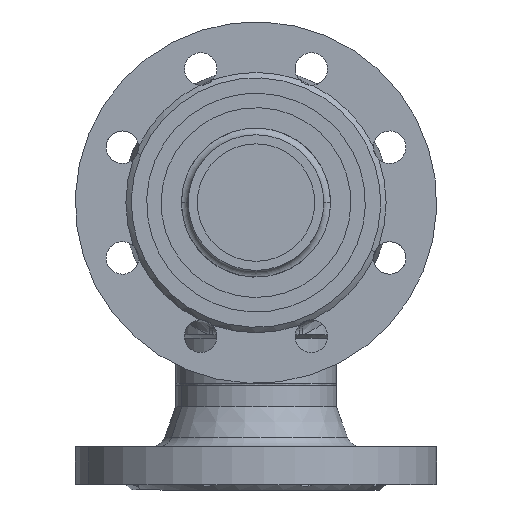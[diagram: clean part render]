
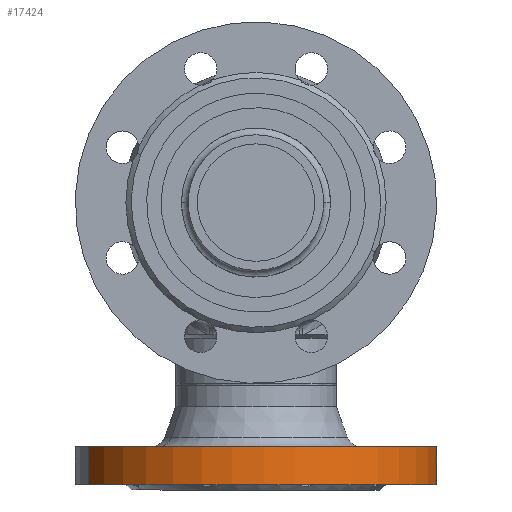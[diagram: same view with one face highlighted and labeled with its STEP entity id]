
A CAD part, front view. The second image highlights one B-rep face of the part: STEP entity #17424.
In plain terms, the highlighted cylindrical face has radius 100 mm (diameter 200 mm), a partial arc.
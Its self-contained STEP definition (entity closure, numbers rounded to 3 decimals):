
#16690 = ORIENTED_EDGE ( 'NONE', *, *, #14976, .F. ) ;
#17190 = EDGE_LOOP ( 'NONE', ( #16690, #16186, #5972, #5484 ) ) ;
#17424 = ADVANCED_FACE ( 'NONE', ( #2670 ), #2671, .T. ) ;
#17799 = EDGE_CURVE ( 'NONE', #14764, #9117, #3066, .T. ) ;
#2638 = LINE ( 'NONE', #2640, #2641 ) ;
#2640 = CARTESIAN_POINT ( 'NONE',  ( -100., 75., 0. ) ) ;
#2641 = VECTOR ( 'NONE', #2642, 1000. ) ;
#2642 = DIRECTION ( 'NONE',  ( 0., 1., 0. ) ) ;
#2670 = FACE_OUTER_BOUND ( 'NONE', #17190, .T. ) ;
#2671 = CYLINDRICAL_SURFACE ( 'NONE', #2672, 100. ) ;
#2672 = AXIS2_PLACEMENT_3D ( 'NONE', #2673, #2678, #2679 ) ;
#2673 = CARTESIAN_POINT ( 'NONE',  ( 0., 75., 0. ) ) ;
#2678 = DIRECTION ( 'NONE',  ( 0., 1., 0. ) ) ;
#2679 = DIRECTION ( 'NONE',  ( -1., 0., 0. ) ) ;
#3066 = CIRCLE ( 'NONE', #3067, 100. ) ;
#3067 = AXIS2_PLACEMENT_3D ( 'NONE', #3068, #3069, #3070 ) ;
#3068 = CARTESIAN_POINT ( 'NONE',  ( 0., 24., 0. ) ) ;
#3069 = DIRECTION ( 'NONE',  ( 0., 1., 0. ) ) ;
#3070 = DIRECTION ( 'NONE',  ( -1., 0., 0. ) ) ;
#5484 = ORIENTED_EDGE ( 'NONE', *, *, #17799, .F. ) ;
#5972 = ORIENTED_EDGE ( 'NONE', *, *, #8260, .T. ) ;
#6432 = EDGE_CURVE ( 'NONE', #15828, #16043, #7367, .T. ) ;
#7079 = CARTESIAN_POINT ( 'NONE',  ( 100., 24., 0. ) ) ;
#7344 = LINE ( 'NONE', #7345, #7346 ) ;
#7345 = CARTESIAN_POINT ( 'NONE',  ( 100., 75., 0. ) ) ;
#7346 = VECTOR ( 'NONE', #7347, 1000. ) ;
#7347 = DIRECTION ( 'NONE',  ( 0., 1., 0. ) ) ;
#7367 = CIRCLE ( 'NONE', #7370, 100. ) ;
#7370 = AXIS2_PLACEMENT_3D ( 'NONE', #7371, #7372, #7373 ) ;
#7371 = CARTESIAN_POINT ( 'NONE',  ( 0., 3., 0. ) ) ;
#7372 = DIRECTION ( 'NONE',  ( 0., 1., 0. ) ) ;
#7373 = DIRECTION ( 'NONE',  ( -1., 0., 0. ) ) ;
#8260 = EDGE_CURVE ( 'NONE', #16043, #9117, #2638, .T. ) ;
#9117 = VERTEX_POINT ( 'NONE', #10904 ) ;
#10904 = CARTESIAN_POINT ( 'NONE',  ( -100., 24., 0. ) ) ;
#13899 = CARTESIAN_POINT ( 'NONE',  ( 100., 3., 0. ) ) ;
#14306 = CARTESIAN_POINT ( 'NONE',  ( -100., 3., 0. ) ) ;
#14764 = VERTEX_POINT ( 'NONE', #7079 ) ;
#14976 = EDGE_CURVE ( 'NONE', #15828, #14764, #7344, .T. ) ;
#15828 = VERTEX_POINT ( 'NONE', #13899 ) ;
#16043 = VERTEX_POINT ( 'NONE', #14306 ) ;
#16186 = ORIENTED_EDGE ( 'NONE', *, *, #6432, .T. ) ;
